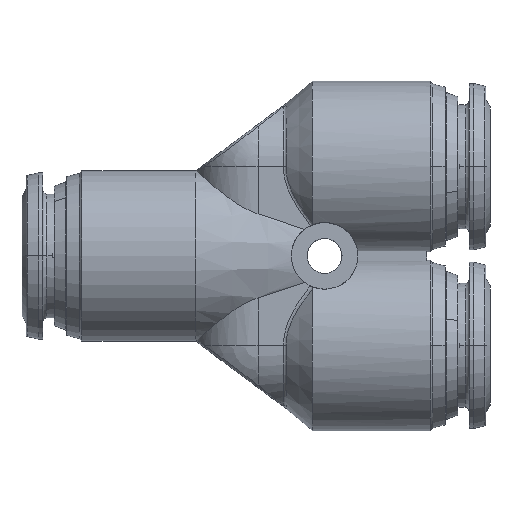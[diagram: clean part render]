
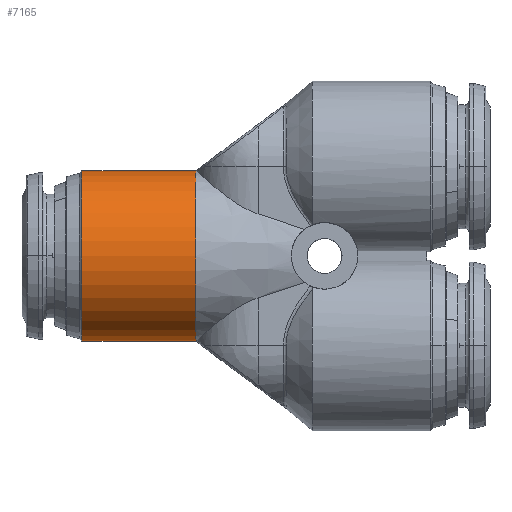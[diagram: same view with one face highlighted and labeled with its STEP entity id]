
A CAD part, top view. The second image highlights one B-rep face of the part: STEP entity #7165.
In plain terms, the highlighted cylindrical face has radius 10.25 mm (diameter 20.5 mm), a partial arc.
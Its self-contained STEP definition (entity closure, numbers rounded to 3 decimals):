
#261 = DIRECTION ( 'NONE',  ( 0., -1., 0. ) ) ;
#375 = VECTOR ( 'NONE', #9636, 1000. ) ;
#768 = AXIS2_PLACEMENT_3D ( 'NONE', #10165, #2036, #261 ) ;
#980 = DIRECTION ( 'NONE',  ( 0., 1., 0. ) ) ;
#1733 = VERTEX_POINT ( 'NONE', #11342 ) ;
#1853 = EDGE_CURVE ( 'NONE', #5485, #1733, #3117, .T. ) ;
#2036 = DIRECTION ( 'NONE',  ( -1., 0., 0. ) ) ;
#2136 = VECTOR ( 'NONE', #9630, 1000. ) ;
#3117 = CIRCLE ( 'NONE', #8225, 10.25 ) ;
#3550 = FACE_OUTER_BOUND ( 'NONE', #3730, .T. ) ;
#3590 = EDGE_CURVE ( 'NONE', #9692, #1733, #7017, .T. ) ;
#3730 = EDGE_LOOP ( 'NONE', ( #9803, #10125, #6818, #3934 ) ) ;
#3934 = ORIENTED_EDGE ( 'NONE', *, *, #3590, .F. ) ;
#3946 = AXIS2_PLACEMENT_3D ( 'NONE', #4918, #7578, #4094 ) ;
#4094 = DIRECTION ( 'NONE',  ( 0., -1., 0. ) ) ;
#4918 = CARTESIAN_POINT ( 'NONE',  ( -7.5, 0., 0. ) ) ;
#5082 = CARTESIAN_POINT ( 'NONE',  ( -7.5, -10.25, 0. ) ) ;
#5196 = VERTEX_POINT ( 'NONE', #10099 ) ;
#5485 = VERTEX_POINT ( 'NONE', #7054 ) ;
#5669 = CARTESIAN_POINT ( 'NONE',  ( -21.202, 0., 0. ) ) ;
#6818 = ORIENTED_EDGE ( 'NONE', *, *, #1853, .T. ) ;
#7017 = LINE ( 'NONE', #7078, #2136 ) ;
#7054 = CARTESIAN_POINT ( 'NONE',  ( -21.202, 10.25, 0. ) ) ;
#7078 = CARTESIAN_POINT ( 'NONE',  ( -26.705, -10.25, 0. ) ) ;
#7165 = ADVANCED_FACE ( 'NONE', ( #3550 ), #8388, .T. ) ;
#7578 = DIRECTION ( 'NONE',  ( -1., 0., 0. ) ) ;
#7972 = CARTESIAN_POINT ( 'NONE',  ( -26.705, 10.25, 0. ) ) ;
#8225 = AXIS2_PLACEMENT_3D ( 'NONE', #5669, #8391, #980 ) ;
#8274 = EDGE_CURVE ( 'NONE', #5196, #5485, #8871, .T. ) ;
#8388 = CYLINDRICAL_SURFACE ( 'NONE', #768, 10.25 ) ;
#8391 = DIRECTION ( 'NONE',  ( 1., 0., 0. ) ) ;
#8871 = LINE ( 'NONE', #7972, #375 ) ;
#9630 = DIRECTION ( 'NONE',  ( -1., 0., 0. ) ) ;
#9636 = DIRECTION ( 'NONE',  ( -1., 0., 0. ) ) ;
#9692 = VERTEX_POINT ( 'NONE', #5082 ) ;
#9803 = ORIENTED_EDGE ( 'NONE', *, *, #10640, .T. ) ;
#10099 = CARTESIAN_POINT ( 'NONE',  ( -7.5, 10.25, 0. ) ) ;
#10125 = ORIENTED_EDGE ( 'NONE', *, *, #8274, .T. ) ;
#10165 = CARTESIAN_POINT ( 'NONE',  ( -26.705, 0., 0. ) ) ;
#10640 = EDGE_CURVE ( 'NONE', #9692, #5196, #11128, .T. ) ;
#11128 = CIRCLE ( 'NONE', #3946, 10.25 ) ;
#11342 = CARTESIAN_POINT ( 'NONE',  ( -21.202, -10.25, 0. ) ) ;
